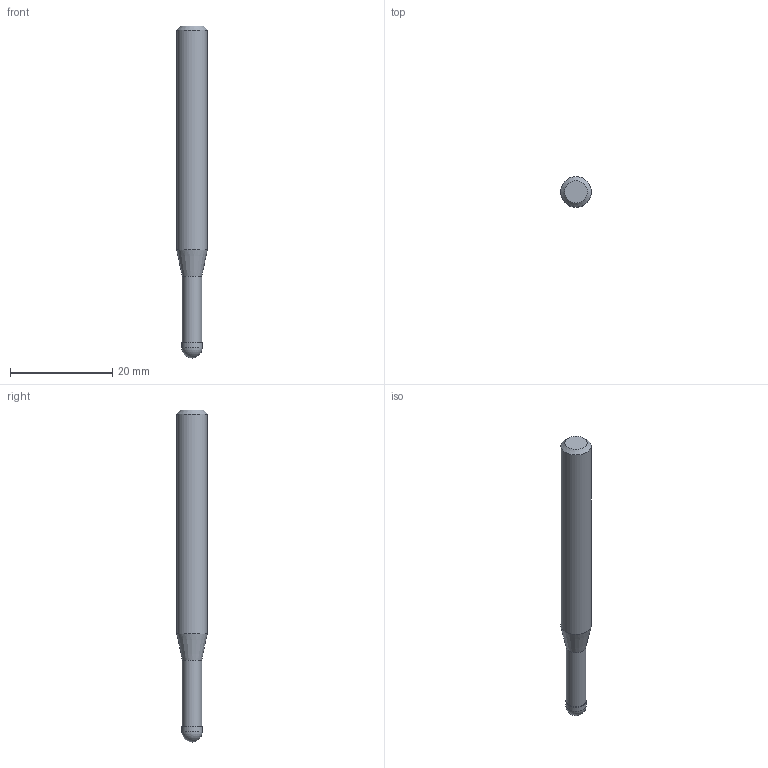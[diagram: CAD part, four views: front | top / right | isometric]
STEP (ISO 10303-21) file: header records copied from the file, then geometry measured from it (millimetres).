
FILE_DESCRIPTION((''),'2;1');
FILE_NAME('C:\Users\nsx150\AppData\Local\Temp\Mastercam 2021\3SYKECWX22\TEMP.step','2021-04-22T10:05:25',(''),(''),'STEP Write','Mastercam 2021 ... CNC Software, Inc.','');
FILE_SCHEMA(('AUTOMOTIVE_DESIGN'));
Length unit declared in the file: millimetre
Products named in the file (1): None
Bounding box: 6 x 6 x 65 mm (x, y, z)
Volume: 1509.6 mm3; surface area: 1142.9 mm2
Topology: 2 solids, 2 shells, 9 faces, 14 edges, 8 vertices
Faces by surface type: plane 3, cylinder 3, cone 2, sphere 1
Full cylindrical faces by diameter (mm): 3.8 x1, 4 x1, 6 x1
Entity records: 211 total; most frequent: DIRECTION 36, CARTESIAN_POINT 25, AXIS2_PLACEMENT_3D 18, ORIENTED_EDGE 14, EDGE_LOOP 14, STYLED_ITEM 12, ADVANCED_FACE 9, FACE_BOUND 8
